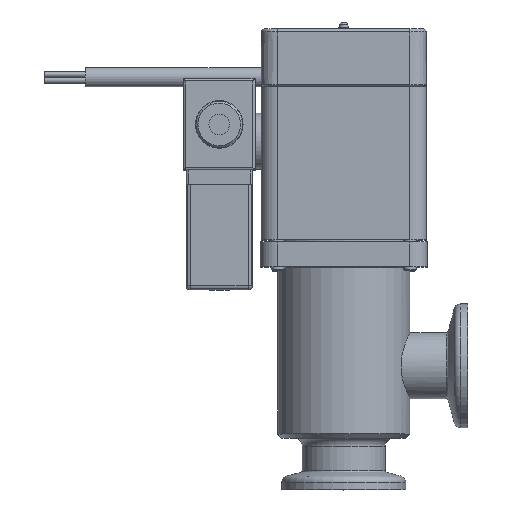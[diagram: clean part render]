
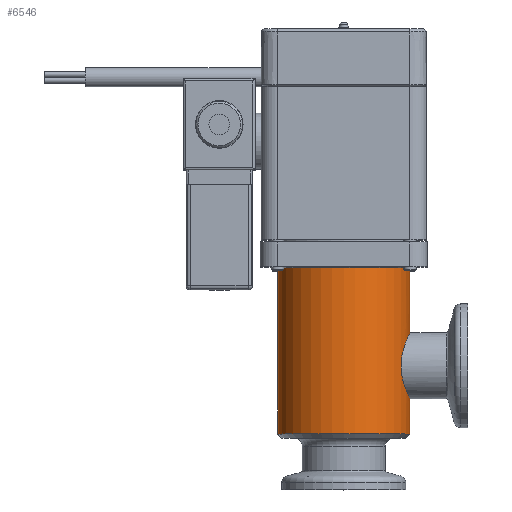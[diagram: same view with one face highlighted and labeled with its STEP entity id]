
A CAD part, top view. The second image highlights one B-rep face of the part: STEP entity #6546.
In plain terms, the highlighted cylindrical face has radius 16 mm (diameter 32 mm), a full revolution.
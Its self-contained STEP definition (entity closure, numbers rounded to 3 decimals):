
#6546=ADVANCED_FACE('',(#7552,#7553,#7554),#7290,.T.);
#7290=CYLINDRICAL_SURFACE('',#15748,16.);
#7473=B_SPLINE_CURVE_WITH_KNOTS('',3,(#20568,#20569,#20570,#20571,#20572,
#20573,#20574,#20575,#20576,#20577,#20578,#20579,#20580,#20581,#20582,#20583,
#20584,#20585),.UNSPECIFIED.,.T.,.F.,(2,2,2,2,2,2,2,2,2,2,2),(-0.125,0.,
0.125,0.25,0.375,0.5,0.625,0.75,0.875,1.,1.125),.UNSPECIFIED.);
#7552=FACE_BOUND('',#8140,.T.);
#7553=FACE_BOUND('',#8141,.T.);
#7554=FACE_BOUND('',#8142,.T.);
#8140=EDGE_LOOP('',(#9201));
#8141=EDGE_LOOP('',(#9202));
#8142=EDGE_LOOP('',(#9203));
#9201=ORIENTED_EDGE('',*,*,#13600,.T.);
#9202=ORIENTED_EDGE('',*,*,#13601,.T.);
#9203=ORIENTED_EDGE('',*,*,#13602,.T.);
#12433=VERTEX_POINT('',#20565);
#12434=VERTEX_POINT('',#20567);
#12435=VERTEX_POINT('',#20586);
#13600=EDGE_CURVE('',#12433,#12433,#15215,.T.);
#13601=EDGE_CURVE('',#12434,#12434,#15216,.T.);
#13602=EDGE_CURVE('',#12435,#12435,#7473,.T.);
#15215=CIRCLE('',#15746,16.);
#15216=CIRCLE('',#15747,16.);
#15746=AXIS2_PLACEMENT_3D('',#20564,#17021,#17022);
#15747=AXIS2_PLACEMENT_3D('',#20566,#17023,#17024);
#15748=AXIS2_PLACEMENT_3D('',#20587,#17025,#17026);
#17021=DIRECTION('',(1.,0.,0.));
#17022=DIRECTION('',(0.,0.,-1.));
#17023=DIRECTION('',(-1.,0.,0.));
#17024=DIRECTION('',(0.,0.,1.));
#17025=DIRECTION('',(-1.,0.,0.));
#17026=DIRECTION('',(0.,0.,1.));
#20564=CARTESIAN_POINT('',(13.5,0.,0.));
#20565=CARTESIAN_POINT('',(13.5,0.,-16.));
#20566=CARTESIAN_POINT('',(53.7,0.,0.));
#20567=CARTESIAN_POINT('',(53.7,0.,16.));
#20568=CARTESIAN_POINT('',(28.398,14.832,-6.));
#20569=CARTESIAN_POINT('',(31.602,14.832,-6.));
#20570=CARTESIAN_POINT('',(33.147,15.126,-5.339));
#20571=CARTESIAN_POINT('',(35.339,15.729,-3.146));
#20572=CARTESIAN_POINT('',(35.999,16.,-1.586));
#20573=CARTESIAN_POINT('',(36.001,16.,1.578));
#20574=CARTESIAN_POINT('',(35.342,15.729,3.145));
#20575=CARTESIAN_POINT('',(33.139,15.124,5.345));
#20576=CARTESIAN_POINT('',(31.579,14.833,5.999));
#20577=CARTESIAN_POINT('',(28.425,14.832,6.001));
#20578=CARTESIAN_POINT('',(26.867,15.122,5.353));
#20579=CARTESIAN_POINT('',(24.647,15.733,3.132));
#20580=CARTESIAN_POINT('',(24.,16.,1.58));
#20581=CARTESIAN_POINT('',(24.,16.,-1.584));
#20582=CARTESIAN_POINT('',(24.659,15.729,-3.146));
#20583=CARTESIAN_POINT('',(26.861,15.124,-5.345));
#20584=CARTESIAN_POINT('',(28.398,14.832,-6.));
#20585=CARTESIAN_POINT('',(31.602,14.832,-6.));
#20586=CARTESIAN_POINT('',(30.,14.832,-6.));
#20587=CARTESIAN_POINT('',(0.,0.,0.));
